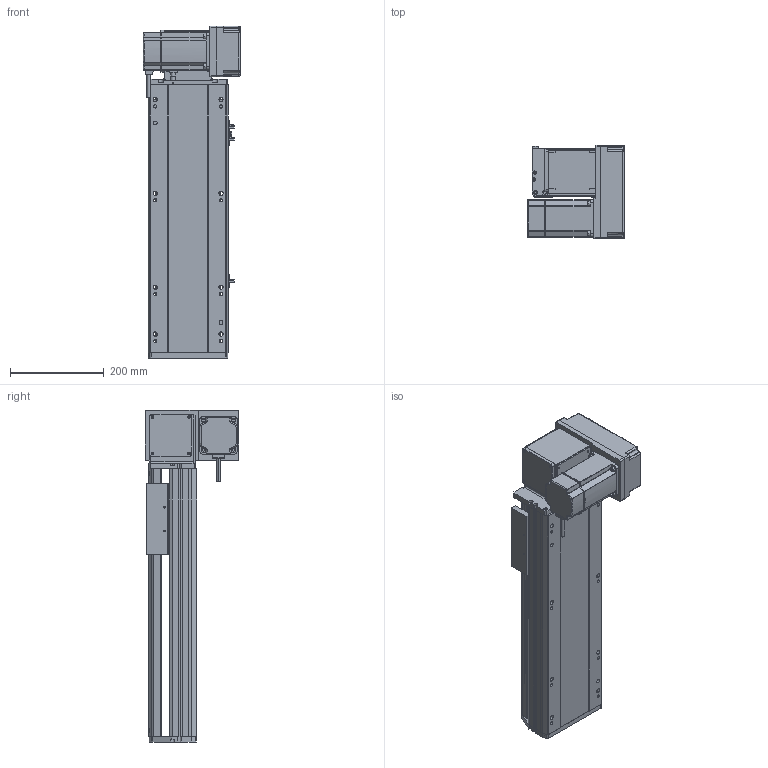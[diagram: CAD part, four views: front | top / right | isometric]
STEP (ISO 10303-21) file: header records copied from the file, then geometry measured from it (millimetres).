
FILE_DESCRIPTION (( 'STEP AP214' ), '1' );
FILE_NAME ('RTB17S-XX-300-RM-M75-C4.STEP', '2025-12-12T02:00:47', ( '' ), ( '' ), 'SwSTEP 2.0', 'SolidWorks 2018', '' );
FILE_SCHEMA (( 'AUTOMOTIVE_DESIGN' ));
Length unit declared in the file: millimetre
Products named in the file (15): RTB22S-GY-018P^RTB17S-RM-々湍釱蚾饜-750W_RTB17S-XX-XX-RM-M75-C4; RTB22S-GY-017P^RTB17S-RM-々湍釱蚾饜-750W_RTB17S-XX-XX-RM-M75-C4; RTB17S-RM-々湍釱蚾饜-750W^RTB17S-XX-XX-RM-M75-C4; RTB22S-GY-008-M75--萇儂啣^RTB17S-RM-々湍釱蚾饜-750W_RTB17S-XX-XX-RM-M75-C4; RTB17S-XX-300-RM-M75-C4; 750W萇儂^RTB17S-XX-XX-RM-M75-C4; RTB17S-L-001-耜醱啣^RTB17S-XX-XX-RM-M75-C4; RTB17S-L-014-T20-P75--々湍釱^RTB17S-RM-々湍釱蚾饜-750W_RTB17S-XX-XX-RM-M75-C4; RTB17S-賑釱^RTB17S-XX-XX-RM-M75-C4; RTB17S-L-007奻裔^RTB17S-XX-XX-RM-M75-C4; RTB22S-GY-005P^RTB17S-RM-々湍釱蚾饜-750W_RTB17S-XX-XX-RM-M75-C4; RTH13-BL-012覜茼え俋离^RTB17S-賑釱_RTB17S-XX-XX-RM-M75-C4; RTB17-R-011菁釱^RTB17S-XX-XX-RM-M75-C4; RTB17S-L-004-賑釱^RTB17S-賑釱_RTB17S-XX-XX-RM-M75-C4; EE672^RTB17S-XX-XX-RM-M75-C4
Assembly tree (17 placements, depth 3):
  RTB17S-XX-300-RM-M75-C4
    RTB17-R-011菁釱^RTB17S-XX-XX-RM-M75-C4
    EE672^RTB17S-XX-XX-RM-M75-C4  x3
    RTB17S-L-001-耜醱啣^RTB17S-XX-XX-RM-M75-C4
    RTB17S-賑釱^RTB17S-XX-XX-RM-M75-C4
      RTB17S-L-004-賑釱^RTB17S-賑釱_RTB17S-XX-XX-RM-M75-C4
      RTH13-BL-012覜茼え俋离^RTB17S-賑釱_RTB17S-XX-XX-RM-M75-C4
    RTB17S-L-007奻裔^RTB17S-XX-XX-RM-M75-C4
    750W萇儂^RTB17S-XX-XX-RM-M75-C4
    RTB17S-RM-々湍釱蚾饜-750W^RTB17S-XX-XX-RM-M75-C4
      RTB17S-L-014-T20-P75--々湍釱^RTB17S-RM-々湍釱蚾饜-750W_RTB17S-XX-XX-RM-M75-C4
      RTB22S-GY-005P^RTB17S-RM-々湍釱蚾饜-750W_RTB17S-XX-XX-RM-M75-C4
      RTB22S-GY-017P^RTB17S-RM-々湍釱蚾饜-750W_RTB17S-XX-XX-RM-M75-C4  x2
      RTB22S-GY-008-M75--萇儂啣^RTB17S-RM-々湍釱蚾饜-750W_RTB17S-XX-XX-RM-M75-C4
      RTB22S-GY-018P^RTB17S-RM-々湍釱蚾饜-750W_RTB17S-XX-XX-RM-M75-C4
Bounding box: 207.4 x 200 x 707.5 mm (x, y, z)
Volume: 7822706.8 mm3; surface area: 1211987.9 mm2
Topology: 17 solids, 17 shells, 2041 faces, 5620 edges, 3626 vertices
Faces by surface type: plane 964, cylinder 661, bspline 294, cone 110, sphere 8, torus 4
Entity records: 55798 total; most frequent: CARTESIAN_POINT 16284, ORIENTED_EDGE 8084, DIRECTION 7592, EDGE_CURVE 4042, AXIS2_PLACEMENT_3D 2646, VERTEX_POINT 2630, VECTOR 2300, LINE 2300
